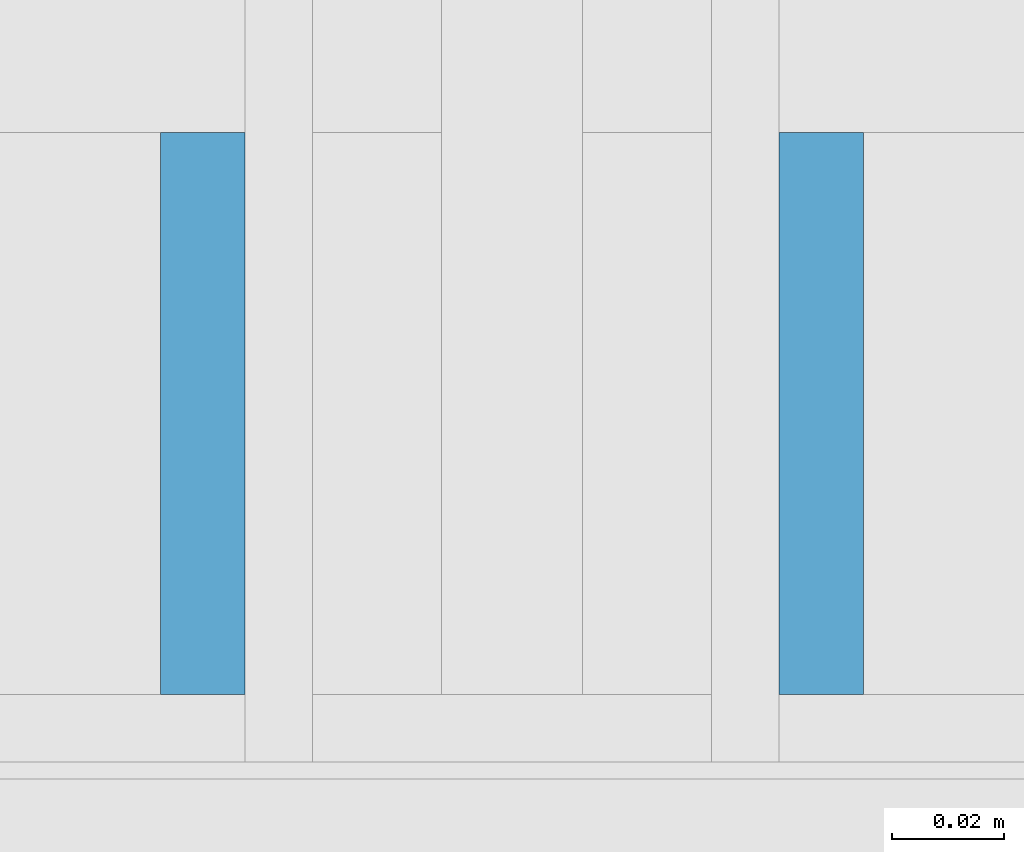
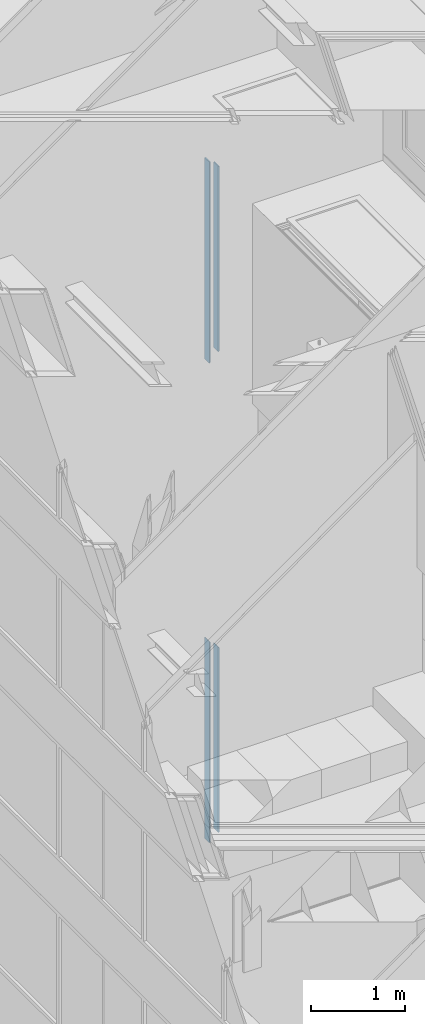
# One storey, part 82 of 583: 4 building element parts, 2 elements without a shape of their own.
"""IFC2X3 building model written with IfcOpenShell, lengths in metres."""

from ifc_helpers import new_model, entity, si_unit, converted_unit, derived_unit, money_unit, direction, frame, origin_with_axes, place, context, subcontext, project, spatial, polyline, outline, extrude, material, type_object, element, aggregate, save


model = new_model("IFC2X3")

# Units and contexts
model_context = context("Model", 3, precision=1e-05, world=origin_with_axes(), true_north=direction((0.0, 1.0)))
body_context = subcontext(model_context, "Body", "Model", "MODEL_VIEW", scale=1.0)
ifc_project = project(units=[si_unit("LENGTHUNIT", "METRE"), si_unit("AREAUNIT", "SQUARE_METRE"), si_unit("VOLUMEUNIT", "CUBIC_METRE"), si_unit("ABSORBEDDOSEUNIT", "GRAY"), si_unit("AMOUNTOFSUBSTANCEUNIT", "MOLE"), si_unit("DOSEEQUIVALENTUNIT", "SIEVERT"), si_unit("ELECTRICCAPACITANCEUNIT", "FARAD"), si_unit("ELECTRICCHARGEUNIT", "COULOMB"), si_unit("ELECTRICCONDUCTANCEUNIT", "SIEMENS"), si_unit("ELECTRICCURRENTUNIT", "AMPERE"), si_unit("ELECTRICRESISTANCEUNIT", "OHM"), si_unit("ELECTRICVOLTAGEUNIT", "VOLT"), si_unit("ENERGYUNIT", "JOULE"), si_unit("FORCEUNIT", "NEWTON"), si_unit("FREQUENCYUNIT", "HERTZ"), si_unit("ILLUMINANCEUNIT", "LUX"), si_unit("INDUCTANCEUNIT", "HENRY"), si_unit("LUMINOUSFLUXUNIT", "LUMEN"), si_unit("LUMINOUSINTENSITYUNIT", "CANDELA"), si_unit("MAGNETICFLUXDENSITYUNIT", "TESLA"), si_unit("MAGNETICFLUXUNIT", "WEBER"), si_unit("MASSUNIT", "GRAM"), converted_unit("PLANEANGLEUNIT", "degree", entity("IfcReal", 0.0174532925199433), si_unit("PLANEANGLEUNIT", "RADIAN"), dimensions=[0, 0, 0, 0, 0, 0, 0]), si_unit("POWERUNIT", "WATT"), si_unit("PRESSUREUNIT", "PASCAL"), si_unit("RADIOACTIVITYUNIT", "BECQUEREL"), si_unit("SOLIDANGLEUNIT", "STERADIAN"), si_unit("THERMODYNAMICTEMPERATUREUNIT", "KELVIN"), si_unit("TIMEUNIT", "SECOND"), derived_unit("ACCELERATIONUNIT", [(si_unit("LENGTHUNIT", "METRE"), 1), (si_unit("TIMEUNIT", "SECOND"), -2)]), derived_unit("ANGULARVELOCITYUNIT", [(converted_unit("PLANEANGLEUNIT", "degree", entity("IfcReal", 0.0174532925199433), si_unit("PLANEANGLEUNIT", "RADIAN"), dimensions=[0, 0, 0, 0, 0, 0, 0]), 1), (si_unit("TIMEUNIT", "SECOND"), -1)]), derived_unit("CURVATUREUNIT", [(converted_unit("PLANEANGLEUNIT", "degree", entity("IfcReal", 0.0174532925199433), si_unit("PLANEANGLEUNIT", "RADIAN"), dimensions=[0, 0, 0, 0, 0, 0, 0]), 1), (si_unit("LENGTHUNIT", "METRE"), -1)]), derived_unit("DYNAMICVISCOSITYUNIT", [(si_unit("PRESSUREUNIT", "PASCAL"), 1), (si_unit("TIMEUNIT", "SECOND"), 1)]), derived_unit("HEATFLUXDENSITYUNIT", [(si_unit("POWERUNIT", "WATT"), 1), (si_unit("LENGTHUNIT", "METRE"), -2)]), derived_unit("HEATINGVALUEUNIT", [(si_unit("ENERGYUNIT", "JOULE"), 1), (si_unit("MASSUNIT", "GRAM"), -1)]), derived_unit("INTEGERCOUNTRATEUNIT", [(si_unit("TIMEUNIT", "SECOND"), -1)]), derived_unit("IONCONCENTRATIONUNIT", [(si_unit("MASSUNIT", "GRAM"), 1), (si_unit("VOLUMEUNIT", "CUBIC_METRE"), -1)]), derived_unit("ISOTHERMALMOISTURECAPACITYUNIT", [(si_unit("VOLUMEUNIT", "CUBIC_METRE"), 1), (si_unit("MASSUNIT", "GRAM"), -1)]), derived_unit("KINEMATICVISCOSITYUNIT", [(si_unit("AREAUNIT", "SQUARE_METRE"), 1), (si_unit("TIMEUNIT", "SECOND"), -1)]), derived_unit("LINEARFORCEUNIT", [(si_unit("FORCEUNIT", "NEWTON"), 1), (si_unit("LENGTHUNIT", "METRE"), -1)]), derived_unit("LINEARMOMENTUNIT", [(si_unit("FORCEUNIT", "NEWTON"), 1), (si_unit("LENGTHUNIT", "METRE"), -1)]), derived_unit("LINEARSTIFFNESSUNIT", [(si_unit("FORCEUNIT", "NEWTON"), 1), (si_unit("LENGTHUNIT", "METRE"), -1)]), derived_unit("LINEARVELOCITYUNIT", [(si_unit("LENGTHUNIT", "METRE"), 1), (si_unit("TIMEUNIT", "SECOND"), -1)]), derived_unit("LUMINOUSINTENSITYDISTRIBUTIONUNIT", [(si_unit("LUMINOUSINTENSITYUNIT", "CANDELA"), 1), (si_unit("LUMINOUSFLUXUNIT", "LUMEN"), -1)]), derived_unit("MASSDENSITYUNIT", [(si_unit("MASSUNIT", "GRAM"), 1), (si_unit("VOLUMEUNIT", "CUBIC_METRE"), -1)]), derived_unit("MASSFLOWRATEUNIT", [(si_unit("MASSUNIT", "GRAM"), 1), (si_unit("TIMEUNIT", "SECOND"), -1)]), derived_unit("MASSPERLENGTHUNIT", [(si_unit("MASSUNIT", "GRAM"), 1), (si_unit("LENGTHUNIT", "METRE"), -1)]), derived_unit("MODULUSOFELASTICITYUNIT", [(si_unit("FORCEUNIT", "NEWTON"), 1), (si_unit("AREAUNIT", "SQUARE_METRE"), -1)]), derived_unit("MODULUSOFLINEARSUBGRADEREACTIONUNIT", [(si_unit("FORCEUNIT", "NEWTON"), 1), (si_unit("LENGTHUNIT", "METRE"), -2)]), derived_unit("MODULUSOFROTATIONALSUBGRADEREACTIONUNIT", [(si_unit("FORCEUNIT", "NEWTON"), 1), (si_unit("LENGTHUNIT", "METRE"), 1)]), derived_unit("MODULUSOFSUBGRADEREACTIONUNIT", [(si_unit("FORCEUNIT", "NEWTON"), 1), (si_unit("VOLUMEUNIT", "CUBIC_METRE"), -1)]), derived_unit("MOISTUREDIFFUSIVITYUNIT", [(si_unit("VOLUMEUNIT", "CUBIC_METRE"), 1), (si_unit("TIMEUNIT", "SECOND"), -1)]), derived_unit("MOLECULARWEIGHTUNIT", [(si_unit("MASSUNIT", "GRAM"), 1), (si_unit("AMOUNTOFSUBSTANCEUNIT", "MOLE"), -1)]), derived_unit("PLANARFORCEUNIT", [(si_unit("FORCEUNIT", "NEWTON"), 1), (si_unit("LENGTHUNIT", "METRE"), -2)]), derived_unit("ROTATIONALFREQUENCYUNIT", [(si_unit("TIMEUNIT", "SECOND"), -1)]), derived_unit("ROTATIONALMASSUNIT", [(si_unit("MASSUNIT", "GRAM"), 1), (si_unit("LENGTHUNIT", "METRE"), 2)]), derived_unit("ROTATIONALSTIFFNESSUNIT", [(si_unit("FORCEUNIT", "NEWTON"), 1), (si_unit("LENGTHUNIT", "METRE"), 1), (converted_unit("PLANEANGLEUNIT", "degree", entity("IfcReal", 0.0174532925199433), si_unit("PLANEANGLEUNIT", "RADIAN"), dimensions=[0, 0, 0, 0, 0, 0, 0]), -1)]), derived_unit("SECTIONAREAINTEGRALUNIT", [(si_unit("LENGTHUNIT", "METRE"), 5)]), derived_unit("SECTIONMODULUSUNIT", [(si_unit("LENGTHUNIT", "METRE"), 3)]), derived_unit("SHEARMODULUSUNIT", [(si_unit("FORCEUNIT", "NEWTON"), 1), (si_unit("AREAUNIT", "SQUARE_METRE"), -1)]), derived_unit("SOUNDPOWERUNIT", [(si_unit("ENERGYUNIT", "JOULE"), 1), (si_unit("TIMEUNIT", "SECOND"), -1)]), derived_unit("SPECIFICHEATCAPACITYUNIT", [(si_unit("FORCEUNIT", "NEWTON"), 1), (si_unit("MASSUNIT", "GRAM"), -1), (si_unit("THERMODYNAMICTEMPERATUREUNIT", "KELVIN"), -1)]), derived_unit("TEMPERATUREGRADIENTUNIT", [(si_unit("THERMODYNAMICTEMPERATUREUNIT", "KELVIN"), 1), (si_unit("LENGTHUNIT", "METRE"), -1)]), derived_unit("THERMALADMITTANCEUNIT", [(si_unit("POWERUNIT", "WATT"), 1), (si_unit("AREAUNIT", "SQUARE_METRE"), -1), (si_unit("THERMODYNAMICTEMPERATUREUNIT", "KELVIN"), -1)]), derived_unit("THERMALCONDUCTANCEUNIT", [(si_unit("POWERUNIT", "WATT"), 1), (si_unit("LENGTHUNIT", "METRE"), -1), (si_unit("THERMODYNAMICTEMPERATUREUNIT", "KELVIN"), -1)]), derived_unit("THERMALEXPANSIONCOEFFICIENTUNIT", [(si_unit("THERMODYNAMICTEMPERATUREUNIT", "KELVIN"), -1)]), derived_unit("THERMALRESISTANCEUNIT", [(si_unit("AREAUNIT", "SQUARE_METRE"), 1), (si_unit("POWERUNIT", "WATT"), -1)]), derived_unit("THERMALTRANSMITTANCEUNIT", [(si_unit("POWERUNIT", "WATT"), 1), (si_unit("AREAUNIT", "SQUARE_METRE"), -1), (si_unit("THERMODYNAMICTEMPERATUREUNIT", "KELVIN"), -1)]), derived_unit("TORQUEUNIT", [(si_unit("FORCEUNIT", "NEWTON"), 1), (si_unit("LENGTHUNIT", "METRE"), 1)]), derived_unit("VAPORPERMEABILITYUNIT", [(si_unit("MASSUNIT", "GRAM"), 1), (si_unit("TIMEUNIT", "SECOND"), -1)]), derived_unit("VOLUMETRICFLOWRATEUNIT", [(si_unit("VOLUMEUNIT", "CUBIC_METRE"), 1), (si_unit("TIMEUNIT", "SECOND"), -1)]), derived_unit("WARPINGCONSTANTUNIT", [(si_unit("LENGTHUNIT", "METRE"), 6)]), derived_unit("WARPINGMOMENTUNIT", [(si_unit("FORCEUNIT", "NEWTON"), 1), (si_unit("LENGTHUNIT", "METRE"), 2)]), money_unit("GBP")], contexts=[model_context])

# Site, building, storey
site_placement = place(None, origin_with_axes())
site = spatial("IfcSite", under=ifc_project, at=site_placement, Name="Site", CompositionType="ELEMENT")
building_placement = place(site_placement, origin_with_axes())
building = spatial("IfcBuilding", under=site, at=building_placement, Name="Building01", CompositionType="ELEMENT")
storey_placement = place(building_placement, frame((0.0, 0.0, 20.78), z_axis=(0.0, 0.0, 1.0), x_axis=(1.0, 0.0, 0.0)))
storey = spatial("IfcBuildingStorey", under=building, at=storey_placement, Name="RL", CompositionType="ELEMENT", Elevation=20.78)

# Wall, building element parts
wall_type = type_object("IfcWallType", Name="SHE_A-Walls_Type05a_Partition_95mm_tall", PredefinedType="NOTDEFINED")
wall_1_placement = place(storey_placement, frame((3.42, 12.13, -2.9125), z_axis=(0.0, 1.0, 0.0), x_axis=(0.0, 0.0, -1.0)))
wall_1 = element("IfcWall", 1, at=wall_1_placement, inside=storey, type_object=wall_type, Name="5A", ObjectType="SHE_A-Walls_Type05a_Partition_95mm_tall")
ifc_material = material(Name="A_BSUK_Walls_Timber")
placement_1 = place(wall_1_placement, origin_with_axes())
building_element_part_1 = element("IfcBuildingElementPart", 2, at=placement_1, material=ifc_material, Name="2", context=body_context, shape_type="SweptSolid", body=[
    extrude(outline(polyline([(2.57, 0.05), (-0.035, 0.05), (-0.035, 0.035), (2.555, 0.035), (2.57, 0.05)])), frame((0.0, 0.0, 0.015), z_axis=(0.0, 0.0, 1.0), x_axis=(1.0, 0.0, 0.0)), (0.0, 0.0, 1.0), 0.1),
])
building_element_part_2 = element("IfcBuildingElementPart", 3, at=placement_1, material=ifc_material, Name="3", context=body_context, shape_type="SweptSolid", body=[
    extrude(outline(polyline([(2.46, -0.06), (0.06, -0.06), (0.06, -0.075), (2.445, -0.075), (2.46, -0.06)])), frame((0.0, 0.0, 0.015), z_axis=(0.0, 0.0, 1.0), x_axis=(1.0, 0.0, 0.0)), (0.0, 0.0, 1.0), 0.1),
])
aggregate(wall_1, [building_element_part_1, building_element_part_2])

wall_2_placement = place(storey_placement, frame((3.42, 12.13, -11.647464), z_axis=(0.0, 1.0, 0.0), x_axis=(0.0, 0.0, 1.0)))
wall_2 = element("IfcWall", 4, at=wall_2_placement, inside=storey, type_object=wall_type, Name="5A", ObjectType="SHE_A-Walls_Type05a_Partition_95mm_tall")
placement_2 = place(wall_2_placement, origin_with_axes())
building_element_part_3 = element("IfcBuildingElementPart", 5, at=placement_2, material=ifc_material, Name="2", context=body_context, shape_type="SweptSolid", body=[
    extrude(outline(polyline([(2.555, -0.035), (-0.035, -0.035), (-0.035, -0.05), (2.57, -0.05), (2.555, -0.035)])), frame((0.0, 0.0, 0.015), z_axis=(0.0, 0.0, 1.0), x_axis=(1.0, 0.0, 0.0)), (0.0, 0.0, 1.0), 0.1),
])
building_element_part_4 = element("IfcBuildingElementPart", 6, at=placement_2, material=ifc_material, Name="3", context=body_context, shape_type="SweptSolid", body=[
    extrude(outline(polyline([(2.445, 0.075), (0.06, 0.075), (0.06, 0.06), (2.46, 0.06), (2.445, 0.075)])), frame((0.0, 0.0, 0.015), z_axis=(0.0, 0.0, 1.0), x_axis=(1.0, 0.0, 0.0)), (0.0, 0.0, 1.0), 0.1),
])
aggregate(wall_2, [building_element_part_3, building_element_part_4])

save(model, "model.ifc")
